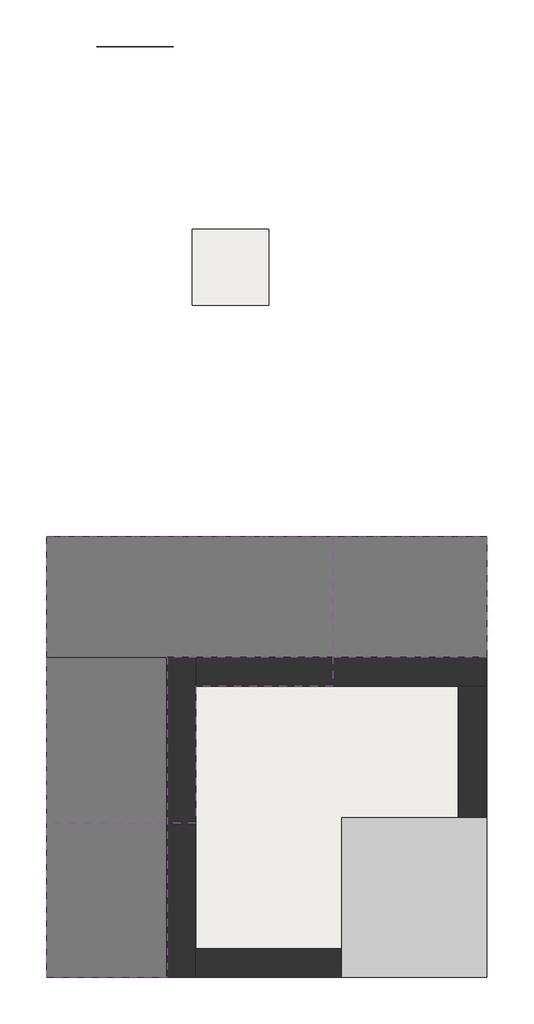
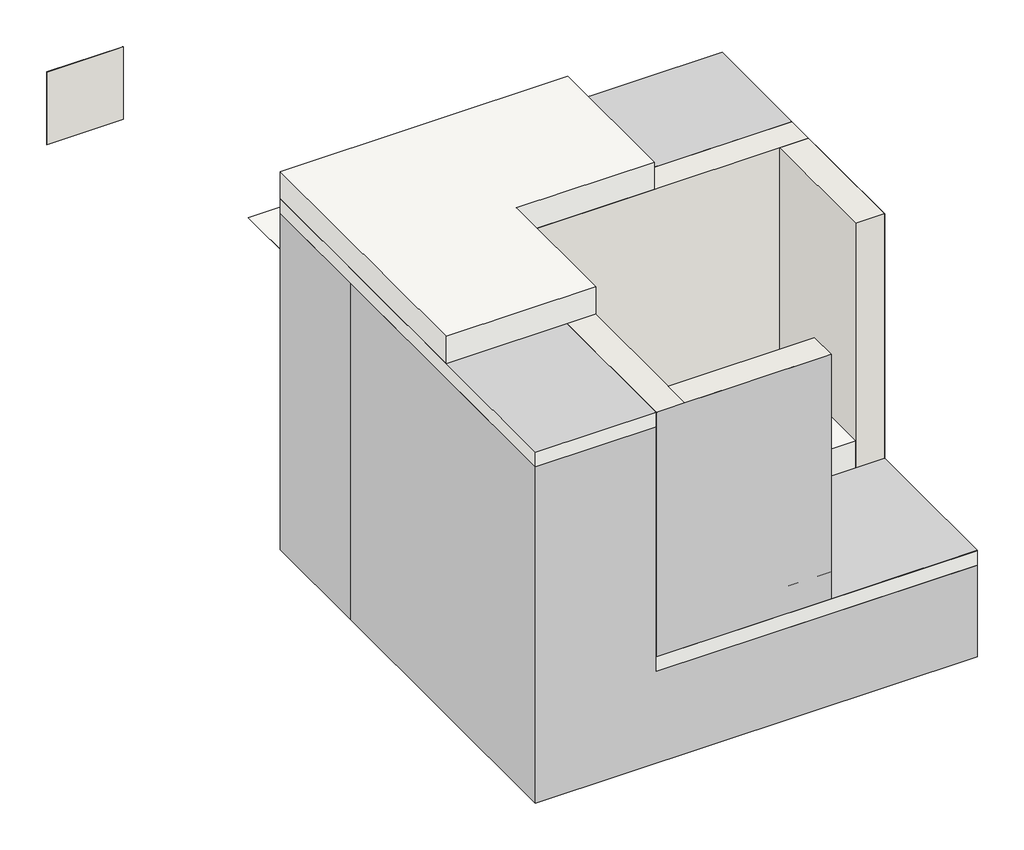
# One storey: 5 slabs, 5 walls, 1 proxy.
"""IFC4 building model written with IfcOpenShell, lengths in millimetres."""

from ifc_helpers import new_model, si_unit, frame, origin, place, context, project, spatial, polyline, outline, extrude, faceted_brep, transform, mapped, element, save
from components import generic_models_eead5954

model = new_model("IFC4")

# Units and contexts
model_context = context("Model", 3, world=origin())
ifc_project = project(units=[si_unit("LENGTHUNIT", "METRE", prefix="MILLI")], contexts=[model_context])

# Site, building, storey
site = spatial("IfcSite", under=ifc_project)
building = spatial("IfcBuilding", under=site)
storey = spatial("IfcBuildingStorey", under=building, Name="ARQ Térreo", Elevation=-2.523798)

# Proxy
placement = place(None, origin())
generic_models_shape = generic_models_eead5954(model_context)
element("IfcBuildingElementProxy", 1, Name="Modelos genéricos 1 : Modelos genéricos 1", ObjectType="Modelos genéricos 1 : Modelos genéricos 1", at=placement, inside=storey, context=model_context, shape_type="MappedRepresentation", body=[
    mapped(generic_models_shape, transform((0.0, 0.0, 0.0), x_axis=(1.0, 0.0, 0.0), y_axis=(0.0, 1.0, 0.0), z_axis=(0.0, 0.0, 1.0))),
])

# Slabs
element("IfcSlab", 2, ObjectType="Genérico 150 mm", at=placement, inside=storey, context=model_context, shape_type="SweptSolid", body=[
    extrude(outline(polyline([(-351.9704105, 145.8700195), (1173.0295895, 145.8700195), (1173.0295895, -691.6299805), (410.5295895, -691.6299805), (410.5295895, -1529.1299805), (-351.9704105, -1529.1299805), (-351.9704105, 145.8700195)])), frame((0.0, 0.0, -2.523798), z_axis=(0.0, 0.0, 1.0), x_axis=(1.0, 0.0, 0.0)), (0.0, 0.0, 1.0), 150.0),
])
element("IfcSlab", 3, ObjectType="Genérico 150 mm", at=placement, inside=storey, context=model_context, shape_type="SweptSolid", body=[
    extrude(outline(polyline([(-1133.0721601, 776.9717691), (366.9278399, 776.9717691), (366.9278399, -4.1299805), (-351.9704105, -4.1299805), (-351.9704105, -723.0282309), (-1133.0721601, -723.0282309), (-1133.0721601, 776.9717691)])), frame((0.0, 0.0, 1347.476202), z_axis=(0.0, 0.0, 1.0), x_axis=(1.0, 0.0, 0.0)), (0.0, 0.0, 1.0), 150.0),
])
element("IfcSlab", 4, ObjectType="IMPH_AMPHIBIA", at=placement, inside=storey, context=model_context, shape_type="SweptSolid", body=[
    extrude(outline(polyline([(31.1278084, 1990.496796), (-368.8721916, 1990.496796), (-368.8721916, 2390.496796), (31.1278084, 2390.496796), (31.1278084, 1990.496796)])), frame((0.0, 0.0, -3.823798), z_axis=(0.0, 0.0, 1.0), x_axis=(1.0, 0.0, 0.0)), (0.0, 0.0, 1.0), 1.3),
])
element("IfcSlab", 5, ObjectType="Lastro", at=placement, inside=storey, context=model_context, shape_type="SweptSolid", body=[
    extrude(outline(polyline([(1173.0295895, 145.8700195), (1173.0295895, -1529.1299805), (-501.9704105, -1529.1299805), (-501.9704105, 145.8700195), (1173.0295895, 145.8700195)])), frame((0.0, 0.0, -83.823798), z_axis=(0.0, 0.0, 1.0), x_axis=(1.0, 0.0, 0.0)), (0.0, 0.0, 1.0), 80.0),
])
element("IfcSlab", 6, ObjectType="Lastro", at=placement, inside=storey, context=model_context, shape_type="SweptSolid", body=[
    extrude(outline(polyline([(1173.0295895, 776.9717691), (1173.0295895, 147.1700195), (-501.9704105, 147.1700195), (-501.9704105, -1529.1299805), (-1133.0721601, -1529.1299805), (-1133.0721601, 776.9717691), (1173.0295895, 776.9717691)])), frame((0.0, 0.0, 1266.176202), z_axis=(0.0, 0.0, 1.0), x_axis=(1.0, 0.0, 0.0)), (0.0, 0.0, 1.0), 80.0),
])

# Walls
element("IfcWall", 7, ObjectType="Parede básica:Parede Concreto", at=placement, inside=storey, context=model_context, shape_type="Brep", body=[
    faceted_brep([(-501.9704105, 145.8700195, -2.523798), (-501.9704105, -1529.1299805, -2.523798), (-501.9704105, -1529.1299805, 1347.476202), (-501.9704105, 145.8700195, 1347.476202), (-351.9704105, 145.8700195, -2.523798), (-351.9704105, 145.8700195, 1347.476202), (-351.9704105, -4.1299805, 1347.476202), (-351.9704105, -1379.1299805, 1347.476202), (-351.9704105, -1529.1299805, 1347.476202), (-351.9704105, -1529.1299805, -2.523798), (-351.9704105, -1379.1299805, -2.523798), (-351.9704105, -4.1299805, -2.523798)], [[[0, 1, 2, 3]], [[4, 5, 6, 7, 8, 9, 10, 11]], [[1, 0, 4, 11, 10, 9]], [[3, 2, 8, 7, 6, 5]], [[0, 3, 5, 4]], [[2, 1, 9, 8]]]),
])
element("IfcWall", 8, ObjectType="IMPV_AMPHIBIA", at=placement, inside=storey, context=model_context, shape_type="SweptSolid", body=[
    extrude(outline(polyline([(-870.3325309, 3346.5200195), (-470.3325309, 3346.5200195), (-470.3325309, 3345.2200195), (-870.3325309, 3345.2200195), (-870.3325309, 3346.5200195)])), frame((0.0, 0.0, -2.523798), z_axis=(0.0, 0.0, 1.0), x_axis=(1.0, 0.0, 0.0)), (0.0, 0.0, 1.0), 400.0),
])
element("IfcWall", 9, ObjectType="Parede básica:Parede Concreto", at=placement, inside=storey, context=model_context, shape_type="Brep", body=[
    faceted_brep([(-351.9704105, -4.1299805, -2.523798), (1023.0295895, -4.1299805, -2.523798), (1173.0295895, -4.1299805, -2.523798), (1173.0295895, -4.1299805, 1347.476202), (1023.0295895, -4.1299805, 1347.476202), (-351.9704105, -4.1299805, 1347.476202), (-351.9704105, 145.8700195, -2.523798), (-351.9704105, 145.8700195, 1347.476202), (1173.0295895, 145.8700195, 1347.476202), (1173.0295895, 145.8700195, -2.523798)], [[[0, 1, 2, 3, 4, 5]], [[6, 7, 8, 9]], [[2, 1, 0, 6, 9]], [[5, 4, 3, 8, 7]], [[0, 5, 7, 6]], [[3, 2, 9, 8]]]),
])
element("IfcWall", 10, ObjectType="Parede básica:Parede Concreto", at=placement, inside=storey, context=model_context, shape_type="SweptSolid", body=[
    extrude(outline(polyline([(1023.0295895, -691.6299805), (1023.0295895, -4.1299805), (1173.0295895, -4.1299805), (1173.0295895, -691.6299805), (1023.0295895, -691.6299805)])), frame((0.0, 0.0, -2.523798), z_axis=(0.0, 0.0, 1.0), x_axis=(1.0, 0.0, 0.0)), (0.0, 0.0, 1.0), 1350.0),
])
element("IfcWall", 11, ObjectType="Parede básica:Parede Concreto", at=placement, inside=storey, context=model_context, shape_type="SweptSolid", body=[
    extrude(outline(polyline([(-351.9704105, -1379.1299805), (410.5295895, -1379.1299805), (410.5295895, -1529.1299805), (-351.9704105, -1529.1299805), (-351.9704105, -1379.1299805)])), frame((0.0, 0.0, -2.523798), z_axis=(0.0, 0.0, 1.0), x_axis=(1.0, 0.0, 0.0)), (0.0, 0.0, 1.0), 1350.0),
])

save(model, "model.ifc")
